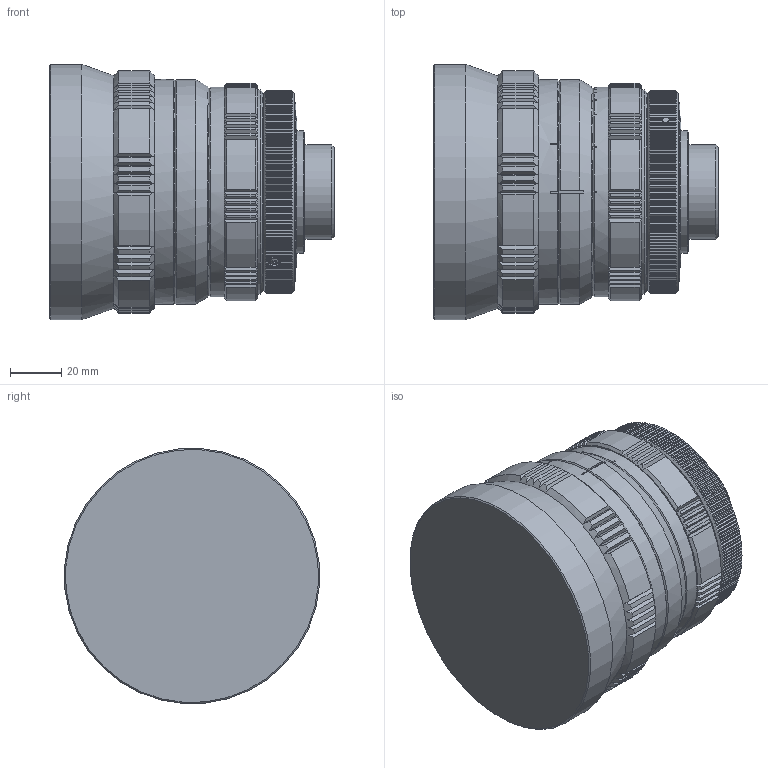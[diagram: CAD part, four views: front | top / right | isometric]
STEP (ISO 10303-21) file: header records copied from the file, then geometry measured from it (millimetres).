
FILE_DESCRIPTION((''),'2;1');
FILE_NAME('C:\Users\dblandino\Desktop\C0811_001_001.stp','2014-04-28T10:17:41',('dblandino'),(''),'Autodesk Inventor 2010','Autodesk Inventor 2010','');
FILE_SCHEMA(('AUTOMOTIVE_DESIGN { 1 0 10303 214 1 1 1 1 }'));
Length unit declared in the file: millimetre
Products named in the file (2): C0811_001_001.iam (Livello di dettaglio sostituto1); C0811_001_001_SUB
Assembly tree (1 placements, depth 2):
  C0811_001_001.iam (Livello di dettaglio sostituto1)
    C0811_001_001_SUB
Bounding box: 111.32 x 99.76 x 99.76 mm (x, y, z)
Volume: 622120.4 mm3; surface area: 47948.6 mm2
Topology: 2 solids, 2 shells, 1080 faces, 3090 edges, 2024 vertices
Faces by surface type: plane 658, cylinder 292, cone 119, torus 5, bspline 5, sphere 1
Full cylindrical faces by diameter (mm): 37 x1, 43 x1, 44 x1, 48 x1, 65.5 x1, 80 x1, 82 x1, 88 x1, 100 x1
Entity records: 35369 total; most frequent: CARTESIAN_POINT 8732, ORIENTED_EDGE 6106, DIRECTION 4891, EDGE_CURVE 3053, VERTEX_POINT 2015, AXIS2_PLACEMENT_3D 1879, EDGE_LOOP 1136, VECTOR 1133
